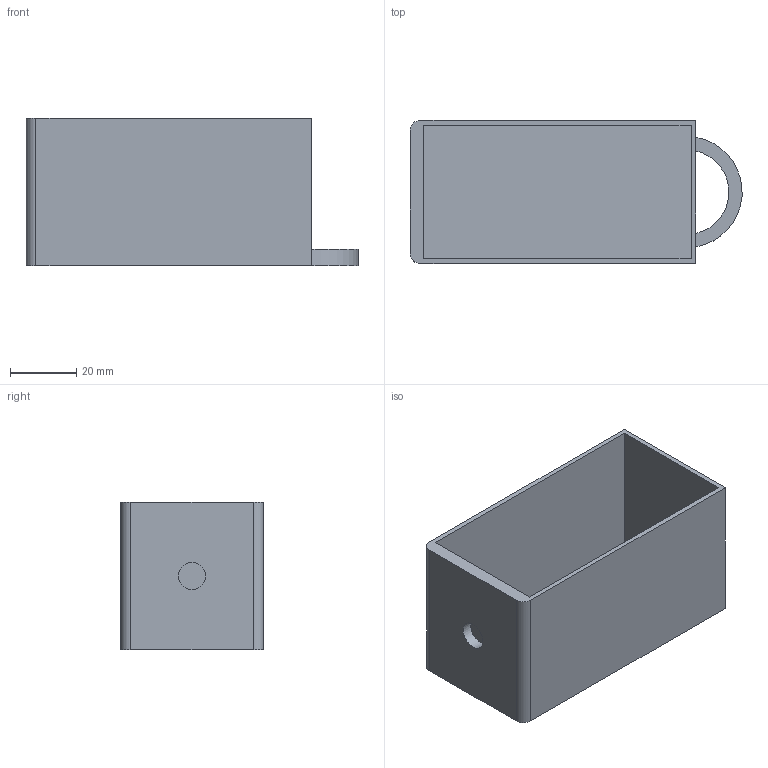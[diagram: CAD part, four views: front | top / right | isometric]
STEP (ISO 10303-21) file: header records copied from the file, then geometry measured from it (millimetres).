
FILE_DESCRIPTION(/* description */ (''),/* implementation_level */ '2;1');
FILE_NAME(/* name */ 'C:/Users/pet3r/Desktop/3D/MOJE/My Drawers/STEP/Drawer 1x2.step',/* time_stamp */ '2018-03-31T21:33:54+02:00',/* author */ (''),/* organization */ (''),/* preprocessor_version */ 'ST-DEVELOPER v16.13',/* originating_system */ 'Autodesk Translation Framework v6.5.0.72',/* authorisation */ '');
FILE_SCHEMA (('AUTOMOTIVE_DESIGN { 1 0 10303 214 3 1 1 }'));
Length unit declared in the file: millimetre
Products named in the file (1): Drawer 1x2
Bounding box: 99.94 x 43 x 44.5 mm (x, y, z)
Volume: 23762.2 mm3; surface area: 30065.1 mm2
Topology: 1 solids, 1 shells, 18 faces, 45 edges, 30 vertices
Faces by surface type: plane 13, cylinder 5
Full cylindrical faces by diameter (mm): 8.3 x1
Entity records: 583 total; most frequent: CARTESIAN_POINT 94, DIRECTION 93, ORIENTED_EDGE 90, EDGE_CURVE 45, LINE 35, VECTOR 35, VERTEX_POINT 30, AXIS2_PLACEMENT_3D 29
